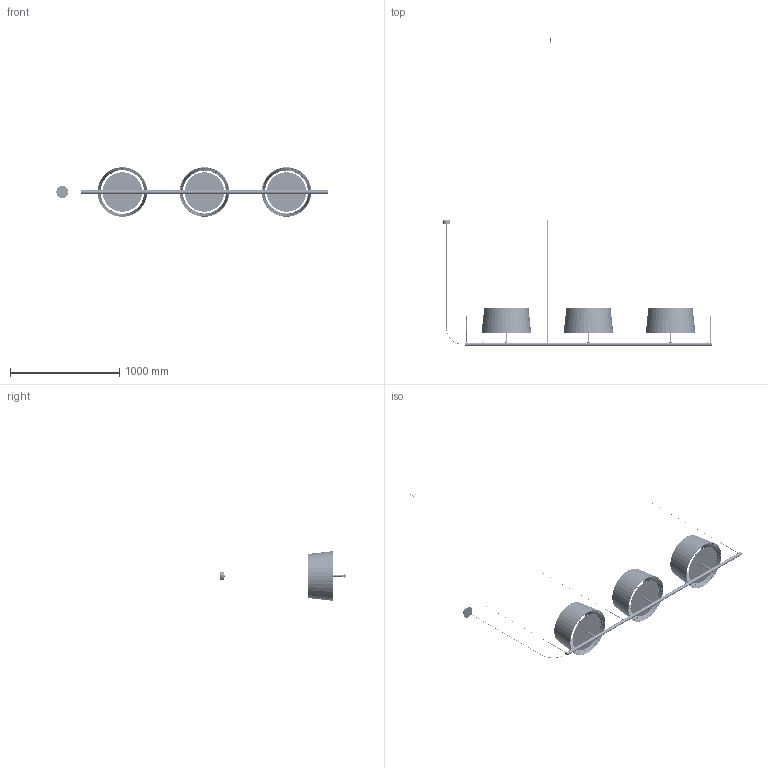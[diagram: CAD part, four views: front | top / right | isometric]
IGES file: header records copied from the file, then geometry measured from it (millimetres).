
Start section: SolidWorks IGES file using analytic representation for surfaces
Global section: file name: C:\SANTACOLE_PDM\I2\Productos de catálogo\indoor\Iluminacion\SISTEMA GRAN FONDA sistema suspension\6_TECNICO COMERCIAL\3D\Sistema Gran Fonda.IGS; native system: SolidWorks 2019; preprocessor: SolidWorks 2019; author: louis.ferraz; date: 200407.093922; units: millimetre
Bounding box: 2479.6 x 2812.9 x 453.64 mm (x, y, z)
Surface area: 3326551.6 mm2 (no closed solid volume)
Topology: 0 solids, 0 shells, 2826 faces, 32121 edges, 32112 vertices
Faces by surface type: revolution 2167, bspline 659
